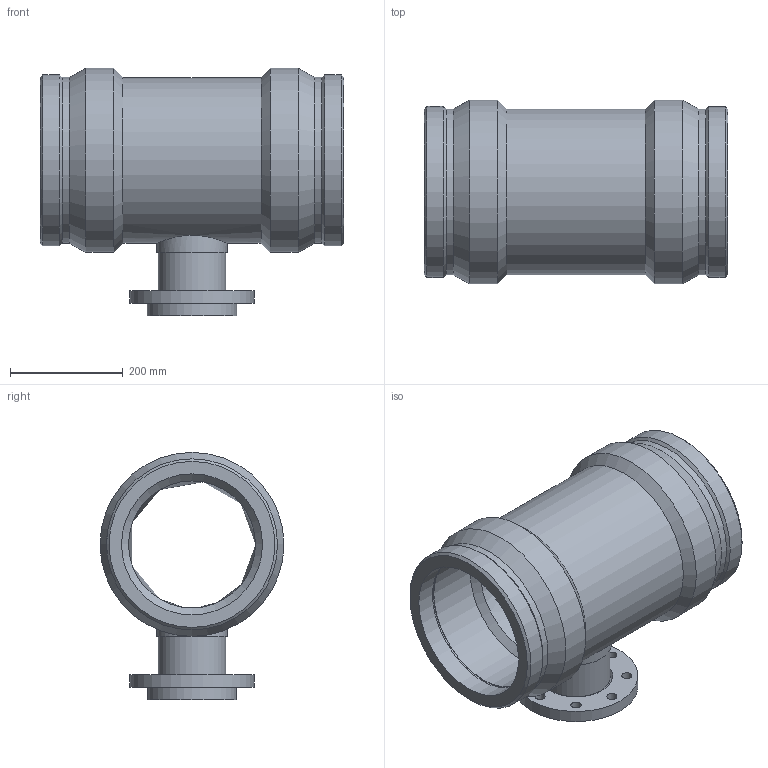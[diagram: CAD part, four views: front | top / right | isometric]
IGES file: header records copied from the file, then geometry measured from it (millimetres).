
Global section: file name: 499404250100.ipt; native system: Autodesk Inventor 2015; preprocessor: unknown; author: KIM; date: 20171106.094501; units: millimetre
Bounding box: 538 x 326 x 438 mm (x, y, z)
Volume: 15950400.1 mm3; surface area: 1165098.7 mm2
Topology: 1 solids, 2 shells, 60 faces, 136 edges, 90 vertices
Faces by surface type: revolution 21, plane 14, cylinder 13, cone 11, bspline 1
Full cylindrical faces by diameter (mm): 4 x2, 120 x1, 125 x1, 158 x1, 220 x1, 293.4 x1, 294.085 x2, 303.18 x2, 326 x2
